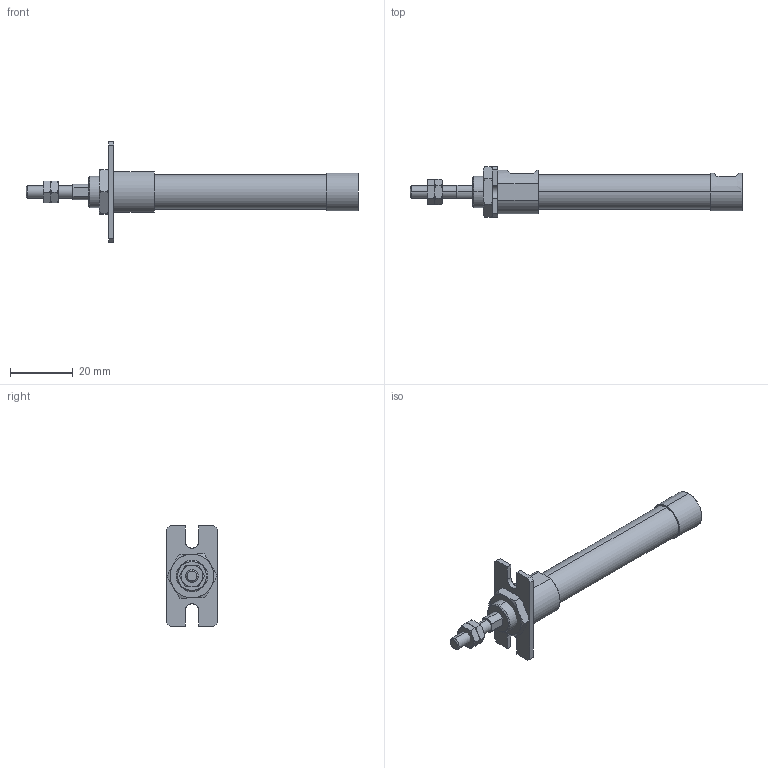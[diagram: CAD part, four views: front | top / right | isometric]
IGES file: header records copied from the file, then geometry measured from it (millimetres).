
Start section: SolidWorks IGES file using analytic representation for surfaces
Global section: file name: C:\Users\Toshiba\Desktop\ZGU2-10-30-A.IGS; native system: SolidWorks 2014; preprocessor: SolidWorks 2014; author: Toshiba; date: 160331.085148; units: millimetre
Bounding box: 106 x 16.16 x 32 mm (x, y, z)
Surface area: 5570.6 mm2 (no closed solid volume)
Topology: 0 solids, 0 shells, 129 faces, 1844 edges, 1840 vertices
Faces by surface type: bspline 93, revolution 36
